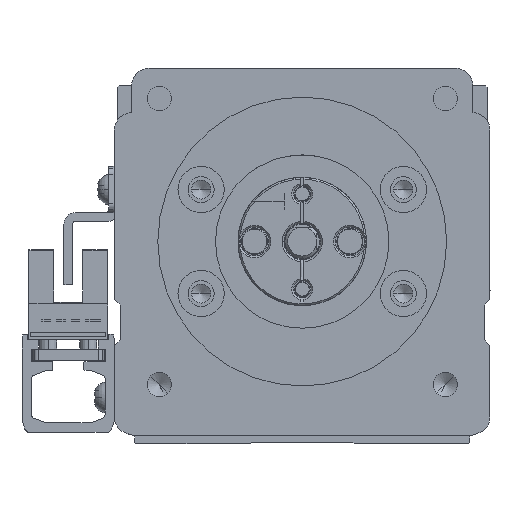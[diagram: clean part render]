
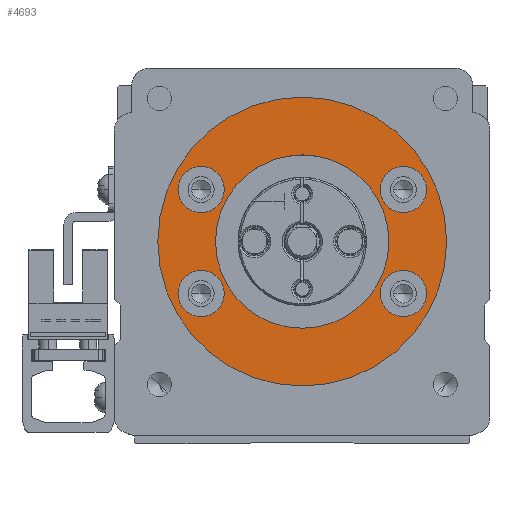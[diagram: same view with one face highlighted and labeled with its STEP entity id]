
A CAD part, front view. The second image highlights one B-rep face of the part: STEP entity #4693.
In plain terms, the highlighted planar face has unit normal (0, -1, 0).
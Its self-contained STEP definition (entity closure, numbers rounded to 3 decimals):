
#4693=ADVANCED_FACE('',(#11017,#11018,#11019,#11020,#11021,#11022),#11023,.F.);
#11017=FACE_BOUND('',#20081,.T.);
#11018=FACE_BOUND('',#20082,.T.);
#11019=FACE_BOUND('',#20083,.T.);
#11020=FACE_BOUND('',#20084,.T.);
#11021=FACE_BOUND('',#20085,.T.);
#11022=FACE_OUTER_BOUND('',#20086,.T.);
#11023=PLANE('',#20087);
#20081=EDGE_LOOP('',(#32754,#32755));
#20082=EDGE_LOOP('',(#32756,#32757));
#20083=EDGE_LOOP('',(#32758,#32759));
#20084=EDGE_LOOP('',(#32760,#32761));
#20085=EDGE_LOOP('',(#32762,#32763));
#20086=EDGE_LOOP('',(#32764,#32765));
#20087=AXIS2_PLACEMENT_3D('',#32766,#32767,#32768);
#32754=ORIENTED_EDGE('',*,*,#52562,.T.);
#32755=ORIENTED_EDGE('',*,*,#54905,.T.);
#32756=ORIENTED_EDGE('',*,*,#54906,.T.);
#32757=ORIENTED_EDGE('',*,*,#54907,.T.);
#32758=ORIENTED_EDGE('',*,*,#54908,.T.);
#32759=ORIENTED_EDGE('',*,*,#54909,.T.);
#32760=ORIENTED_EDGE('',*,*,#54910,.T.);
#32761=ORIENTED_EDGE('',*,*,#54911,.T.);
#32762=ORIENTED_EDGE('',*,*,#54912,.T.);
#32763=ORIENTED_EDGE('',*,*,#54913,.T.);
#32764=ORIENTED_EDGE('',*,*,#53789,.T.);
#32765=ORIENTED_EDGE('',*,*,#54914,.T.);
#32766=CARTESIAN_POINT('',(300.,165.0,0.));
#32767=DIRECTION('',(0.,1.0,0.));
#32768=DIRECTION('',(1.0,0.,0.));
#52562=EDGE_CURVE('',#62913,#62911,#62914,.T.);
#53789=EDGE_CURVE('',#65059,#65064,#65066,.T.);
#54905=EDGE_CURVE('',#62911,#62913,#66903,.T.);
#54906=EDGE_CURVE('',#66904,#66905,#66906,.T.);
#54907=EDGE_CURVE('',#66905,#66904,#66907,.T.);
#54908=EDGE_CURVE('',#66908,#66909,#66910,.T.);
#54909=EDGE_CURVE('',#66909,#66908,#66911,.T.);
#54910=EDGE_CURVE('',#66912,#66913,#66914,.T.);
#54911=EDGE_CURVE('',#66913,#66912,#66915,.T.);
#54912=EDGE_CURVE('',#66916,#66917,#66918,.T.);
#54913=EDGE_CURVE('',#66917,#66916,#66919,.T.);
#54914=EDGE_CURVE('',#65064,#65059,#66920,.T.);
#62911=VERTEX_POINT('',#77685);
#62913=VERTEX_POINT('',#77688);
#62914=CIRCLE('',#77689,4.0);
#65059=VERTEX_POINT('',#80713);
#65064=VERTEX_POINT('',#80719);
#65066=CIRCLE('',#80722,25.0);
#66903=CIRCLE('',#83352,4.0);
#66904=VERTEX_POINT('',#83353);
#66905=VERTEX_POINT('',#83354);
#66906=CIRCLE('',#83355,4.0);
#66907=CIRCLE('',#83356,4.0);
#66908=VERTEX_POINT('',#83357);
#66909=VERTEX_POINT('',#83358);
#66910=CIRCLE('',#83359,4.0);
#66911=CIRCLE('',#83360,4.0);
#66912=VERTEX_POINT('',#83361);
#66913=VERTEX_POINT('',#83362);
#66914=CIRCLE('',#83363,4.0);
#66915=CIRCLE('',#83364,4.0);
#66916=VERTEX_POINT('',#83365);
#66917=VERTEX_POINT('',#83366);
#66918=CIRCLE('',#83367,15.0);
#66919=CIRCLE('',#83368,15.0);
#66920=CIRCLE('',#83369,25.0);
#77685=CARTESIAN_POINT('',(278.5,165.0,-9.));
#77688=CARTESIAN_POINT('',(286.5,165.0,-9.));
#77689=AXIS2_PLACEMENT_3D('',#96638,#96639,#96640);
#80713=CARTESIAN_POINT('',(325.,165.0,0.));
#80719=CARTESIAN_POINT('',(275.,165.0,0.));
#80722=AXIS2_PLACEMENT_3D('',#98290,#98291,#98292);
#83352=AXIS2_PLACEMENT_3D('',#99792,#99793,#99794);
#83353=CARTESIAN_POINT('',(321.5,165.0,-9.));
#83354=CARTESIAN_POINT('',(313.5,165.0,-9.));
#83355=AXIS2_PLACEMENT_3D('',#99795,#99796,#99797);
#83356=AXIS2_PLACEMENT_3D('',#99798,#99799,#99800);
#83357=CARTESIAN_POINT('',(286.5,165.0,9.));
#83358=CARTESIAN_POINT('',(278.5,165.0,9.));
#83359=AXIS2_PLACEMENT_3D('',#99801,#99802,#99803);
#83360=AXIS2_PLACEMENT_3D('',#99804,#99805,#99806);
#83361=CARTESIAN_POINT('',(321.5,165.0,9.));
#83362=CARTESIAN_POINT('',(313.5,165.0,9.));
#83363=AXIS2_PLACEMENT_3D('',#99807,#99808,#99809);
#83364=AXIS2_PLACEMENT_3D('',#99810,#99811,#99812);
#83365=CARTESIAN_POINT('',(285.,165.0,0.));
#83366=CARTESIAN_POINT('',(315.,165.0,0.));
#83367=AXIS2_PLACEMENT_3D('',#99813,#99814,#99815);
#83368=AXIS2_PLACEMENT_3D('',#99816,#99817,#99818);
#83369=AXIS2_PLACEMENT_3D('',#99819,#99820,#99821);
#96638=CARTESIAN_POINT('',(282.5,165.0,-9.));
#96639=DIRECTION('',(0.,1.0,0.));
#96640=DIRECTION('',(-1.0,0.,0.));
#98290=CARTESIAN_POINT('',(300.,165.0,0.));
#98291=DIRECTION('',(0.,-1.0,0.));
#98292=DIRECTION('',(1.0,0.,0.));
#99792=CARTESIAN_POINT('',(282.5,165.0,-9.));
#99793=DIRECTION('',(0.,1.0,0.));
#99794=DIRECTION('',(-1.0,0.,0.));
#99795=CARTESIAN_POINT('',(317.5,165.0,-9.));
#99796=DIRECTION('',(0.,1.0,0.));
#99797=DIRECTION('',(-1.0,0.,0.));
#99798=CARTESIAN_POINT('',(317.5,165.0,-9.));
#99799=DIRECTION('',(0.,1.0,0.));
#99800=DIRECTION('',(-1.0,0.,0.));
#99801=CARTESIAN_POINT('',(282.5,165.0,9.));
#99802=DIRECTION('',(0.,1.0,0.));
#99803=DIRECTION('',(-1.0,0.,0.));
#99804=CARTESIAN_POINT('',(282.5,165.0,9.));
#99805=DIRECTION('',(0.,1.0,0.));
#99806=DIRECTION('',(-1.0,0.,0.));
#99807=CARTESIAN_POINT('',(317.5,165.0,9.));
#99808=DIRECTION('',(0.,1.0,0.));
#99809=DIRECTION('',(-1.0,0.,0.));
#99810=CARTESIAN_POINT('',(317.5,165.0,9.));
#99811=DIRECTION('',(0.,1.0,0.));
#99812=DIRECTION('',(-1.0,0.,0.));
#99813=CARTESIAN_POINT('',(300.,165.0,0.));
#99814=DIRECTION('',(0.,1.0,0.));
#99815=DIRECTION('',(1.0,0.,0.));
#99816=CARTESIAN_POINT('',(300.,165.0,0.));
#99817=DIRECTION('',(0.,1.0,0.));
#99818=DIRECTION('',(1.0,0.,0.));
#99819=CARTESIAN_POINT('',(300.,165.0,0.));
#99820=DIRECTION('',(0.,-1.0,0.));
#99821=DIRECTION('',(1.0,0.,0.));
